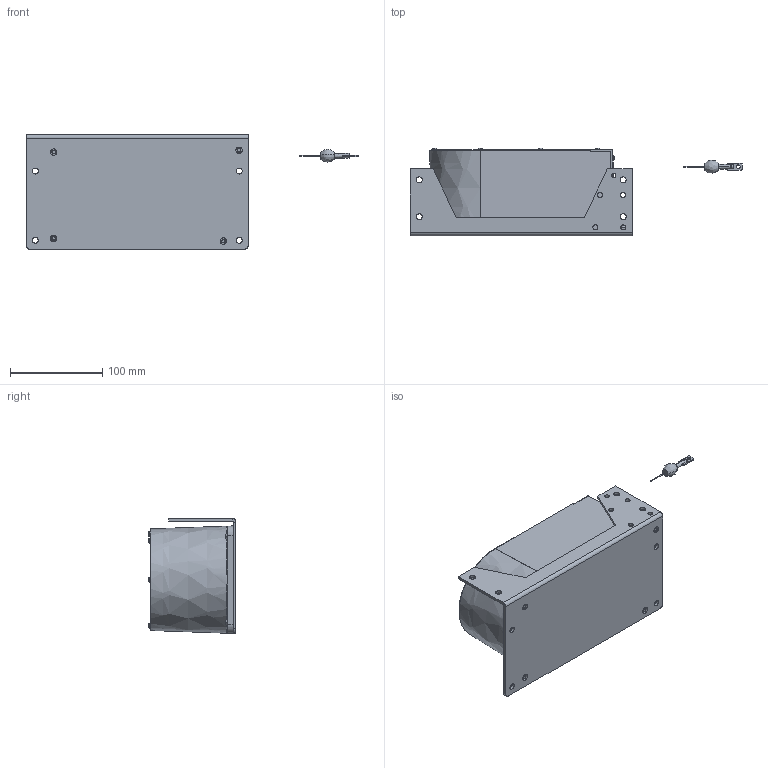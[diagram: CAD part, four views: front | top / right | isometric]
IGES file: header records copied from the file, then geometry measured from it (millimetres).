
Start section: SolidWorks IGES file using analytic representation for surfaces
Bounding box: 359.82 x 95 x 124.5 mm (x, y, z)
Surface area: 187622.8 mm2 (no closed solid volume)
Topology: 0 solids, 0 shells, 506 faces, 7967 edges, 7965 vertices
Faces by surface type: bspline 310, revolution 196
